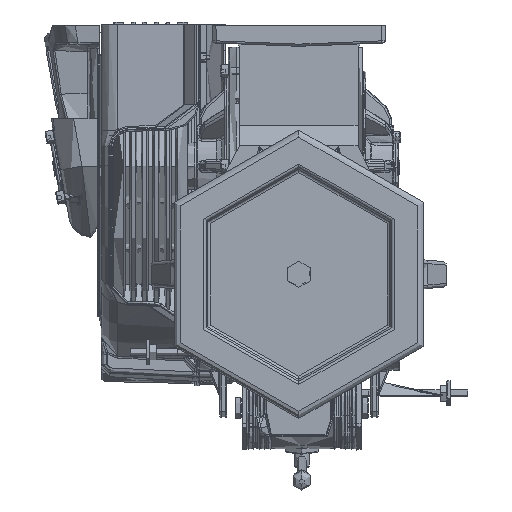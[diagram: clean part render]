
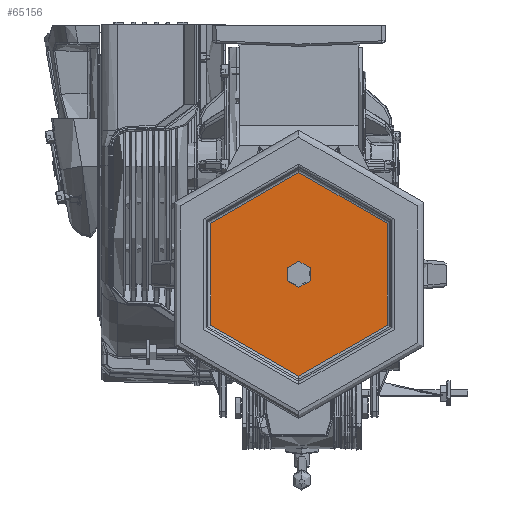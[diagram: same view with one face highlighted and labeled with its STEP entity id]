
A CAD part, front view. The second image highlights one B-rep face of the part: STEP entity #65156.
In plain terms, the highlighted planar face has unit normal (0, -1, 0).
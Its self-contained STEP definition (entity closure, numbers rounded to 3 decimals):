
#1650 = VERTEX_POINT ( 'NONE', #222657 ) ;
#7765 = ORIENTED_EDGE ( 'NONE', *, *, #172821, .F. ) ;
#24924 = VERTEX_POINT ( 'NONE', #117690 ) ;
#28160 = AXIS2_PLACEMENT_3D ( 'NONE', #250548, #202178, #127384 ) ;
#47704 = CIRCLE ( 'NONE', #62626, 141.34 ) ;
#56142 = EDGE_LOOP ( 'NONE', ( #240984, #306552 ) ) ;
#56312 = CARTESIAN_POINT ( 'NONE',  ( 19.987, -516.974, -24.434 ) ) ;
#56608 = VERTEX_POINT ( 'NONE', #138722 ) ;
#62626 = AXIS2_PLACEMENT_3D ( 'NONE', #92914, #259784, #261335 ) ;
#65156 = ADVANCED_FACE ( 'NONE', ( #118420, #190116 ), #135722, .T. ) ;
#85506 = DIRECTION ( 'NONE',  ( 0., -1., 0. ) ) ;
#88566 = CARTESIAN_POINT ( 'NONE',  ( 19.987, -516.974, -24.434 ) ) ;
#90471 = CIRCLE ( 'NONE', #199980, 18.111 ) ;
#91627 = AXIS2_PLACEMENT_3D ( 'NONE', #112298, #207423, #137235 ) ;
#92914 = CARTESIAN_POINT ( 'NONE',  ( 19.987, -516.974, -24.434 ) ) ;
#97711 = EDGE_CURVE ( 'NONE', #187642, #56608, #116401, .T. ) ;
#110070 = CARTESIAN_POINT ( 'NONE',  ( 19.987, -516.974, 116.906 ) ) ;
#112298 = CARTESIAN_POINT ( 'NONE',  ( 161.327, -516.974, -24.434 ) ) ;
#116401 = CIRCLE ( 'NONE', #196056, 141.34 ) ;
#117690 = CARTESIAN_POINT ( 'NONE',  ( 19.987, -516.974, -42.545 ) ) ;
#118420 = FACE_OUTER_BOUND ( 'NONE', #56142, .T. ) ;
#122692 = CIRCLE ( 'NONE', #28160, 18.111 ) ;
#123209 = EDGE_CURVE ( 'NONE', #56608, #187642, #47704, .T. ) ;
#127384 = DIRECTION ( 'NONE',  ( 0., 0., -1. ) ) ;
#135722 = PLANE ( 'NONE',  #91627 ) ;
#137235 = DIRECTION ( 'NONE',  ( 0., 0., -1. ) ) ;
#138722 = CARTESIAN_POINT ( 'NONE',  ( 19.987, -516.974, -165.773 ) ) ;
#151324 = DIRECTION ( 'NONE',  ( 0., -1., 0. ) ) ;
#169734 = EDGE_LOOP ( 'NONE', ( #7765, #294865 ) ) ;
#172821 = EDGE_CURVE ( 'NONE', #1650, #24924, #90471, .T. ) ;
#187642 = VERTEX_POINT ( 'NONE', #110070 ) ;
#190116 = FACE_BOUND ( 'NONE', #169734, .T. ) ;
#196056 = AXIS2_PLACEMENT_3D ( 'NONE', #88566, #85506, #275773 ) ;
#197076 = EDGE_CURVE ( 'NONE', #24924, #1650, #122692, .T. ) ;
#199980 = AXIS2_PLACEMENT_3D ( 'NONE', #56312, #151324, #246494 ) ;
#202178 = DIRECTION ( 'NONE',  ( 0., -1., 0. ) ) ;
#207423 = DIRECTION ( 'NONE',  ( 0., -1., 0. ) ) ;
#222657 = CARTESIAN_POINT ( 'NONE',  ( 19.987, -516.974, -6.323 ) ) ;
#240984 = ORIENTED_EDGE ( 'NONE', *, *, #123209, .T. ) ;
#246494 = DIRECTION ( 'NONE',  ( 0., 0., -1. ) ) ;
#250548 = CARTESIAN_POINT ( 'NONE',  ( 19.987, -516.974, -24.434 ) ) ;
#259784 = DIRECTION ( 'NONE',  ( 0., -1., 0. ) ) ;
#261335 = DIRECTION ( 'NONE',  ( 0., 0., -1. ) ) ;
#275773 = DIRECTION ( 'NONE',  ( 0., 0., -1. ) ) ;
#294865 = ORIENTED_EDGE ( 'NONE', *, *, #197076, .F. ) ;
#306552 = ORIENTED_EDGE ( 'NONE', *, *, #97711, .T. ) ;
